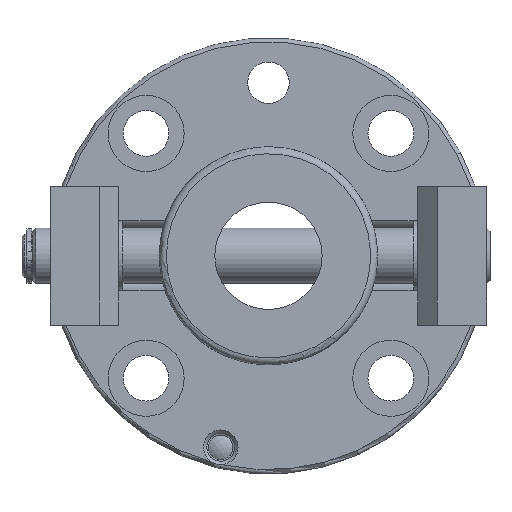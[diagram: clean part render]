
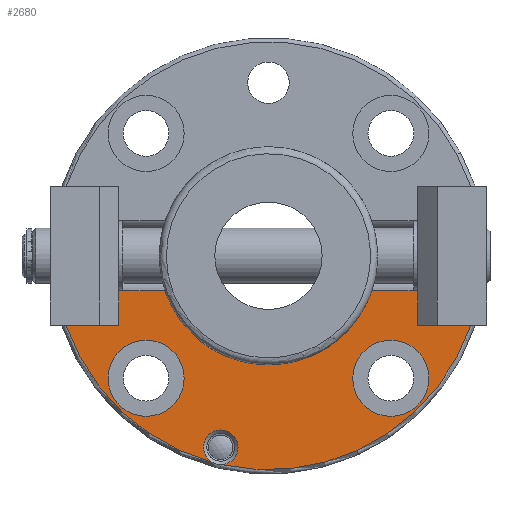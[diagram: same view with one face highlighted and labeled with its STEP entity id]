
A CAD part, front view. The second image highlights one B-rep face of the part: STEP entity #2680.
In plain terms, the highlighted planar face has unit normal (0, -1, 0).
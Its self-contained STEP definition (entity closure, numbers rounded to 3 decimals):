
#92=FACE_BOUND('',#434,.T.);
#93=FACE_BOUND('',#435,.T.);
#128=PLANE('',#2921);
#277=FACE_OUTER_BOUND('',#433,.T.);
#433=EDGE_LOOP('',(#1982,#1983,#1984,#1985,#1986,#1987,#1988,#1989,#1990,
#1991,#1992));
#434=EDGE_LOOP('',(#1993,#1994));
#435=EDGE_LOOP('',(#1995,#1996));
#575=LINE('',#4352,#750);
#585=LINE('',#4459,#760);
#592=LINE('',#4482,#767);
#596=LINE('',#4532,#771);
#600=LINE('',#4540,#775);
#601=LINE('',#4541,#776);
#750=VECTOR('',#3294,10.);
#760=VECTOR('',#3356,10.);
#767=VECTOR('',#3381,10.);
#771=VECTOR('',#3393,10.);
#775=VECTOR('',#3401,10.);
#776=VECTOR('',#3402,10.);
#914=CIRCLE('',#2822,2.5);
#917=CIRCLE('',#2825,2.5);
#918=CIRCLE('',#2827,30.9);
#920=CIRCLE('',#2829,30.9);
#931=CIRCLE('',#2847,5.5);
#932=CIRCLE('',#2848,5.5);
#936=CIRCLE('',#2855,5.5);
#937=CIRCLE('',#2856,5.5);
#950=CIRCLE('',#2876,15.75);
#1082=VERTEX_POINT('',#3955);
#1083=VERTEX_POINT('',#3956);
#1084=VERTEX_POINT('',#3977);
#1087=VERTEX_POINT('',#3986);
#1090=VERTEX_POINT('',#4001);
#1101=VERTEX_POINT('',#4044);
#1102=VERTEX_POINT('',#4045);
#1106=VERTEX_POINT('',#4059);
#1107=VERTEX_POINT('',#4060);
#1130=VERTEX_POINT('',#4244);
#1131=VERTEX_POINT('',#4263);
#1140=VERTEX_POINT('',#4350);
#1161=VERTEX_POINT('',#4458);
#1168=VERTEX_POINT('',#4480);
#1174=VERTEX_POINT('',#4539);
#1356=EDGE_CURVE('',#1083,#1084,#914,.T.);
#1360=EDGE_CURVE('',#1084,#1082,#917,.T.);
#1361=EDGE_CURVE('',#1082,#1087,#918,.T.);
#1365=EDGE_CURVE('',#1090,#1083,#920,.T.);
#1380=EDGE_CURVE('',#1101,#1102,#931,.T.);
#1381=EDGE_CURVE('',#1102,#1101,#932,.T.);
#1387=EDGE_CURVE('',#1106,#1107,#936,.T.);
#1388=EDGE_CURVE('',#1107,#1106,#937,.T.);
#1419=EDGE_CURVE('',#1131,#1130,#950,.T.);
#1433=EDGE_CURVE('',#1090,#1140,#575,.T.);
#1463=EDGE_CURVE('',#1161,#1131,#585,.T.);
#1475=EDGE_CURVE('',#1130,#1168,#592,.T.);
#1483=EDGE_CURVE('',#1161,#1140,#596,.T.);
#1487=EDGE_CURVE('',#1174,#1168,#600,.T.);
#1488=EDGE_CURVE('',#1174,#1087,#601,.T.);
#1982=ORIENTED_EDGE('',*,*,#1356,.F.);
#1983=ORIENTED_EDGE('',*,*,#1365,.F.);
#1984=ORIENTED_EDGE('',*,*,#1433,.T.);
#1985=ORIENTED_EDGE('',*,*,#1483,.F.);
#1986=ORIENTED_EDGE('',*,*,#1463,.T.);
#1987=ORIENTED_EDGE('',*,*,#1419,.T.);
#1988=ORIENTED_EDGE('',*,*,#1475,.T.);
#1989=ORIENTED_EDGE('',*,*,#1487,.F.);
#1990=ORIENTED_EDGE('',*,*,#1488,.T.);
#1991=ORIENTED_EDGE('',*,*,#1361,.F.);
#1992=ORIENTED_EDGE('',*,*,#1360,.F.);
#1993=ORIENTED_EDGE('',*,*,#1380,.T.);
#1994=ORIENTED_EDGE('',*,*,#1381,.T.);
#1995=ORIENTED_EDGE('',*,*,#1387,.T.);
#1996=ORIENTED_EDGE('',*,*,#1388,.T.);
#2680=ADVANCED_FACE('',(#277,#92,#93),#128,.T.);
#2822=AXIS2_PLACEMENT_3D('',#3978,#3159,#3160);
#2825=AXIS2_PLACEMENT_3D('',#3984,#3166,#3167);
#2827=AXIS2_PLACEMENT_3D('',#3987,#3170,#3171);
#2829=AXIS2_PLACEMENT_3D('',#4012,#3174,#3175);
#2847=AXIS2_PLACEMENT_3D('',#4046,#3214,#3215);
#2848=AXIS2_PLACEMENT_3D('',#4047,#3216,#3217);
#2855=AXIS2_PLACEMENT_3D('',#4061,#3232,#3233);
#2856=AXIS2_PLACEMENT_3D('',#4062,#3234,#3235);
#2876=AXIS2_PLACEMENT_3D('',#4264,#3280,#3281);
#2921=AXIS2_PLACEMENT_3D('',#4538,#3399,#3400);
#3159=DIRECTION('center_axis',(0.,-1.,0.));
#3160=DIRECTION('ref_axis',(-1.,0.,0.));
#3166=DIRECTION('center_axis',(0.,-1.,0.));
#3167=DIRECTION('ref_axis',(-1.,0.,0.));
#3170=DIRECTION('center_axis',(0.,1.,0.));
#3171=DIRECTION('ref_axis',(0.,0.,-1.));
#3174=DIRECTION('center_axis',(0.,1.,0.));
#3175=DIRECTION('ref_axis',(0.,0.,-1.));
#3214=DIRECTION('center_axis',(0.,1.,0.));
#3215=DIRECTION('ref_axis',(1.,0.,0.));
#3216=DIRECTION('center_axis',(0.,1.,0.));
#3217=DIRECTION('ref_axis',(1.,0.,0.));
#3232=DIRECTION('center_axis',(0.,1.,0.));
#3233=DIRECTION('ref_axis',(1.,0.,0.));
#3234=DIRECTION('center_axis',(0.,1.,0.));
#3235=DIRECTION('ref_axis',(1.,0.,0.));
#3280=DIRECTION('center_axis',(0.,1.,0.));
#3281=DIRECTION('ref_axis',(-1.,0.,0.));
#3294=DIRECTION('',(-1.,0.,0.));
#3356=DIRECTION('',(-1.,0.,0.));
#3381=DIRECTION('',(-1.,0.,0.));
#3393=DIRECTION('',(0.,0.,-1.));
#3399=DIRECTION('center_axis',(0.,-1.,0.));
#3400=DIRECTION('ref_axis',(0.,0.,-1.));
#3401=DIRECTION('',(0.,0.,1.));
#3402=DIRECTION('',(-1.,0.,0.));
#3955=CARTESIAN_POINT('',(-8.18,5.,-29.797));
#3956=CARTESIAN_POINT('',(-6.766,5.,-30.15));
#3977=CARTESIAN_POINT('',(-4.395,5.,-27.653));
#3978=CARTESIAN_POINT('Origin',(-6.895,5.,-27.653));
#3984=CARTESIAN_POINT('Origin',(-6.895,5.,-27.653));
#3986=CARTESIAN_POINT('',(-29.237,5.,-10.));
#3987=CARTESIAN_POINT('Origin',(0.,5.,0.));
#4001=CARTESIAN_POINT('',(29.237,5.,-10.));
#4012=CARTESIAN_POINT('Origin',(0.,5.,0.));
#4044=CARTESIAN_POINT('',(23.178,5.,-17.678));
#4045=CARTESIAN_POINT('',(12.178,5.,-17.678));
#4046=CARTESIAN_POINT('Origin',(17.678,5.,-17.678));
#4047=CARTESIAN_POINT('Origin',(17.678,5.,-17.678));
#4059=CARTESIAN_POINT('',(-12.178,5.,-17.678));
#4060=CARTESIAN_POINT('',(-23.178,5.,-17.678));
#4061=CARTESIAN_POINT('Origin',(-17.678,5.,-17.678));
#4062=CARTESIAN_POINT('Origin',(-17.678,5.,-17.678));
#4244=CARTESIAN_POINT('',(-14.918,5.,-5.05));
#4263=CARTESIAN_POINT('',(14.918,5.,-5.05));
#4264=CARTESIAN_POINT('Origin',(0.,5.,0.));
#4350=CARTESIAN_POINT('',(23.5,5.,-10.));
#4352=CARTESIAN_POINT('',(1.527,5.,-10.));
#4458=CARTESIAN_POINT('',(23.5,5.,-5.05));
#4459=CARTESIAN_POINT('',(23.5,5.,-5.05));
#4480=CARTESIAN_POINT('',(-23.5,5.,-5.05));
#4482=CARTESIAN_POINT('',(-23.5,5.,-5.05));
#4532=CARTESIAN_POINT('',(23.5,5.,0.));
#4538=CARTESIAN_POINT('Origin',(-23.625,5.,0.));
#4539=CARTESIAN_POINT('',(-23.5,5.,-10.));
#4540=CARTESIAN_POINT('',(-23.5,5.,0.));
#4541=CARTESIAN_POINT('',(-25.152,5.,-10.));
